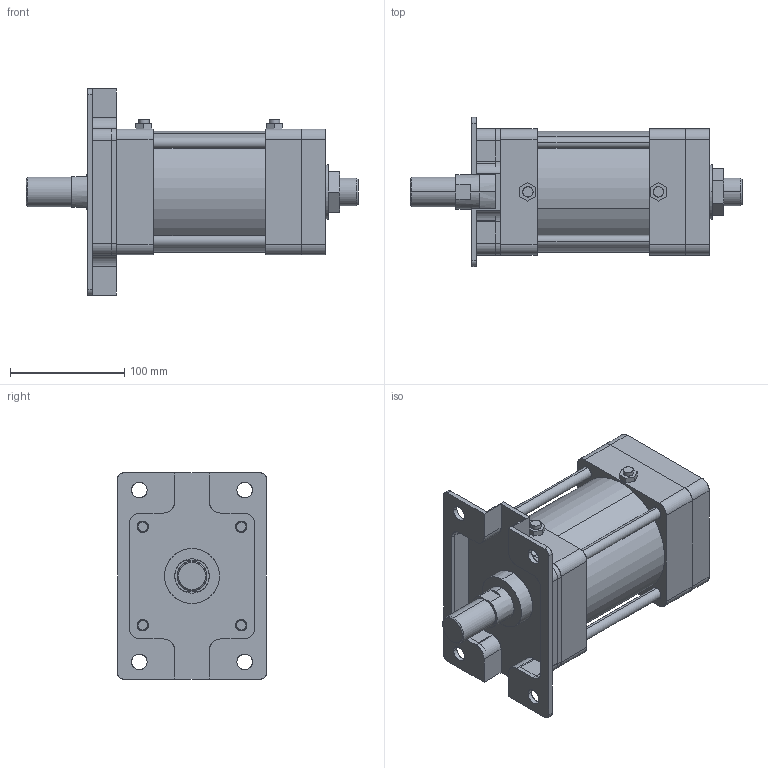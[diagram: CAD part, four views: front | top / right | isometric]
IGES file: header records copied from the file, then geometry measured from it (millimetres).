
Start section: SolidWorks IGES file using analytic representation for surfaces
Global section: file name: C:\Users\Toshiba\Desktop\KGA2-100#-50-A.IGS; native system: SolidWorks 2014; preprocessor: SolidWorks 2014; author: Toshiba; date: 160414.154537; units: millimetre
Bounding box: 290 x 130 x 180 mm (x, y, z)
Surface area: 309596.6 mm2 (no closed solid volume)
Topology: 0 solids, 0 shells, 412 faces, 6853 edges, 6849 vertices
Faces by surface type: bspline 215, revolution 197
